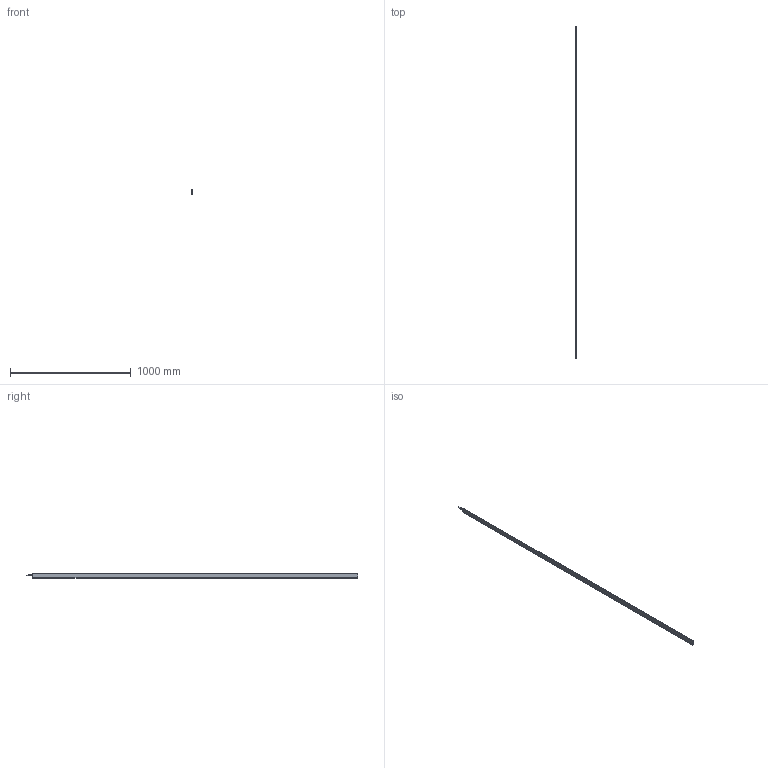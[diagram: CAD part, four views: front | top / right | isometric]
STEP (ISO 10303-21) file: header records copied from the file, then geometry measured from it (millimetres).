
FILE_DESCRIPTION (( 'STEP AP214' ), '1' );
FILE_NAME ('ILG-L-K2-2691mm.STEP', '2017-07-11T08:47:41', ( '' ), ( '' ), 'SwSTEP 2.0', 'SolidWorks 2016', '' );
FILE_SCHEMA (( 'AUTOMOTIVE_DESIGN' ));
Length unit declared in the file: millimetre
Products named in the file (1): ILG-L-K2-2691mm
Bounding box: 9 x 2745.5 x 40.71 mm (x, y, z)
Surface area: 529770.6 mm2 (no closed solid volume)
Topology: 0 solids, 13 shells, 681 faces, 1786 edges, 1135 vertices
Faces by surface type: cylinder 288, plane 255, cone 90, bspline 32, torus 16
Entity records: 30628 total; most frequent: CARTESIAN_POINT 6489, ORIENTED_EDGE 3525, DIRECTION 3406, EDGE_CURVE 1770, AXIS2_PLACEMENT_3D 1301, VERTEX_POINT 1135, LINE 804, VECTOR 804
